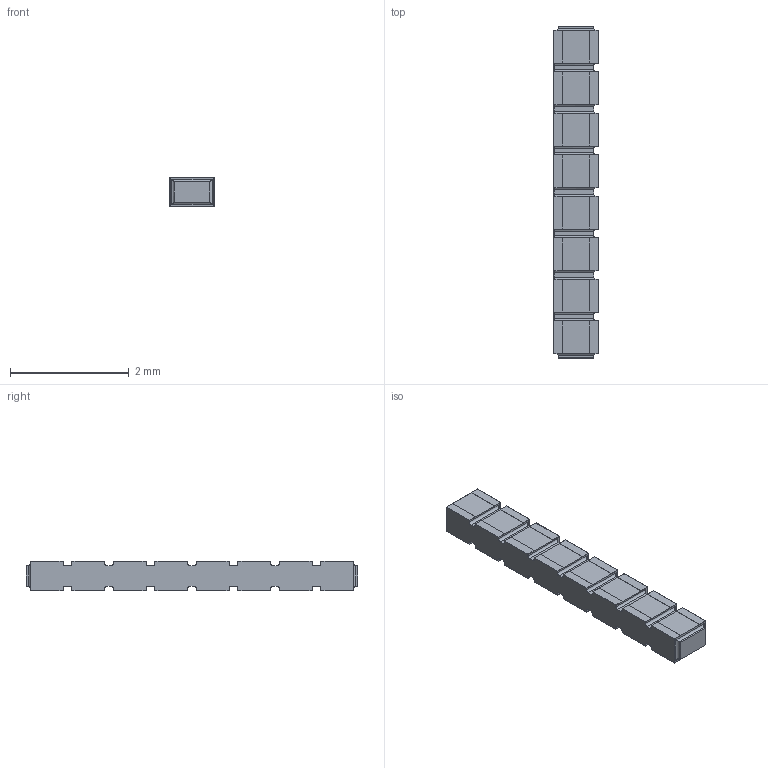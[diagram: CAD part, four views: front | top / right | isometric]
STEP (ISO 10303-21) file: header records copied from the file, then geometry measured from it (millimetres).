
FILE_DESCRIPTION(/* description */ (''),/* implementation_level */ '2;1');
FILE_NAME(/* name */ 'S:\DOCUMENT\AUTOCAD\3D_Modèles\10_3D-pour-VISHAY-COM\PRA\PRA073\PRA073-C2_à_C8\10_IGES\PRA073C8_B-or-N-or-G.stp',/* time_stamp */ '2017-12-21T10:45:34+01:00',/* author */ ('dparmentier'),/* organization */ ('unknown'),/* preprocessor_version */ 'ST-DEVELOPER v17',/* originating_system */ 'Autodesk Inventor 2018',/* authorisation */ '');
FILE_SCHEMA (('AUTOMOTIVE_DESIGN { 1 0 10303 214 3 1 1 }'));
Length unit declared in the file: millimetre
Products named in the file (1): PRA073C8_B-or-N-or-G
Bounding box: 0.75 x 5.6 x 0.5 mm (x, y, z)
Volume: 1.9 mm3; surface area: 30.2 mm2
Topology: 10 solids, 10 shells, 324 faces, 870 edges, 568 vertices
Faces by surface type: plane 246, cylinder 78
Entity records: 10030 total; most frequent: CARTESIAN_POINT 1763, ORIENTED_EDGE 1740, DIRECTION 1640, EDGE_CURVE 870, LINE 750, VECTOR 750, VERTEX_POINT 568, AXIS2_PLACEMENT_3D 445
